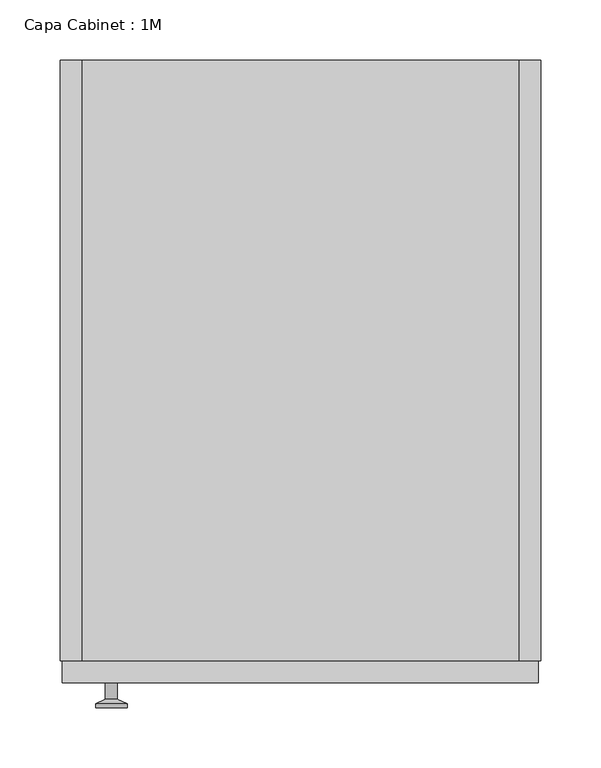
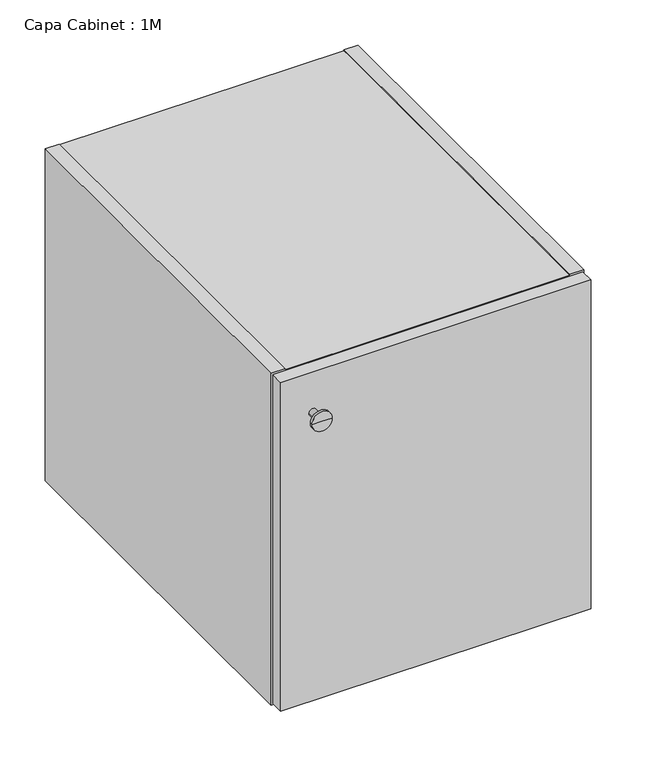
"""IFC4 building model written with IfcOpenShell, lengths in millimetres: furniture geometry, Capa Cabinet : 1M."""

from ifc_helpers import new_model, si_unit, frame, origin, place, context, project, spatial, polyline, circle_curve, outline, extrude, faceted_brep, source, transform, mapped, element, save
from ifc_brep_helpers import plane_surface, cylinder_surface, revolved_surface, advanced_brep


def capa_cabinet_1m_d2b1a533(model_context):
    return source(origin(), model_context, "Body", "SolidModel", [
        faceted_brep([(-182.0, 500.0, 448.0), (-182.0, 500.0, 447.0), (182.0, 500.0, 447.0), (182.0, 500.0, 448.0), (200.0, 500.0, 448.0), (200.0, 500.0, 0.0), (182.0, 500.0, 0.0), (182.0, 500.0, 1.0), (-182.0, 500.0, 1.0), (-182.0, 500.0, 0.0), (-200.0, 500.0, 0.0), (-200.0, 500.0, 448.0), (182.0, 490.0, 19.0), (182.0, 490.0, 429.0), (-182.0, 490.0, 429.0), (-182.0, 490.0, 19.0), (-182.0, 0.0, 448.0), (-200.0, 0.0, 448.0), (-200.0, 0.0, 0.0), (-182.0, 0.0, 0.0), (-182.0, 0.0, 1.0), (182.0, 0.0, 1.0), (182.0, 0.0, 0.0), (200.0, 0.0, 0.0), (200.0, 0.0, 448.0), (182.0, 0.0, 448.0), (182.0, 0.0, 447.0), (-182.0, 0.0, 447.0), (182.0, 0.0, 429.0), (182.0, 0.0, 19.0), (-182.0, 0.0, 19.0), (-182.0, 0.0, 429.0)], [[[0, 1, 2, 3, 4, 5, 6, 7, 8, 9, 10, 11]], [[12, 13, 14, 15]], [[16, 17, 18, 19, 20, 21, 22, 23, 24, 25, 26, 27], [28, 29, 30, 31]], [[17, 16, 0, 11]], [[18, 17, 11, 10]], [[23, 22, 6, 5]], [[24, 23, 5, 4]], [[19, 18, 10, 9]], [[20, 19, 9, 8]], [[21, 20, 8, 7]], [[22, 21, 7, 6]], [[25, 24, 4, 3]], [[26, 25, 3, 2]], [[27, 26, 2, 1]], [[16, 27, 1, 0]], [[29, 28, 13, 12]], [[30, 29, 12, 15]], [[31, 30, 15, 14]], [[28, 31, 14, 13]]]),
        extrude(outline(polyline([(198.0, -18.0), (-198.0, -18.0), (-198.0, 0.0), (198.0, 0.0), (198.0, -18.0)])), frame((0.0, 0.0, 2.0), z_axis=(0.0, 0.0, 1.0), x_axis=(1.0, 0.0, 0.0)), (0.0, 0.0, 1.0), 444.0),
        advanced_brep(
        [(-157.2922597, -18.0, 392.0), (-152.2922597, -18.0, 392.0), (-162.2922597, -18.0, 392.0), (-170.2922597, -38.997134, 392.0), (-144.2922597, -38.997134, 392.0), (-157.2922597, -38.997134, 392.0), (-170.2922597, -35.5419417, 392.0), (-144.2922597, -35.5419417, 392.0), (-162.2922597, -31.8114804, 392.0), (-152.2922597, -31.8114804, 392.0)],
        [
            (0, 1),
            (1, 2, circle_curve(frame((-157.2922597, -18.0, 392.0), z_axis=(0.0, 1.0, 0.0), x_axis=(1.0, 0.0, 0.0)), 5.0)),
            (2, 0),
            (2, 1, circle_curve(frame((-157.2922597, -18.0, 392.0), z_axis=(0.0, 1.0, 0.0), x_axis=(1.0, 0.0, 0.0)), 5.0)),
            (3, 4, circle_curve(frame((-157.2922597, -38.997134, 392.0), z_axis=(0.0, -1.0, 0.0), x_axis=(1.0, 0.0, 0.0)), 13.0)),
            (4, 5),
            (5, 3),
            (4, 3, circle_curve(frame((-157.2922597, -38.997134, 392.0), z_axis=(0.0, -1.0, 0.0), x_axis=(1.0, 0.0, 0.0)), 13.0)),
            (6, 7, circle_curve(frame((-157.2922597, -35.5419417, 392.0), z_axis=(0.0, -1.0, 0.0), x_axis=(1.0, 0.0, 0.0)), 13.0)),
            (7, 4),
            (3, 6),
            (7, 6, circle_curve(frame((-157.2922597, -35.5419417, 392.0), z_axis=(0.0, -1.0, 0.0), x_axis=(1.0, 0.0, 0.0)), 13.0)),
            (8, 9, circle_curve(frame((-157.2922597, -31.8114804, 392.0), z_axis=(0.0, -1.0, 0.0), x_axis=(1.0, 0.0, 0.0)), 5.0)),
            (9, 7),
            (6, 8),
            (9, 8, circle_curve(frame((-157.2922597, -31.8114804, 392.0), z_axis=(0.0, -1.0, 0.0), x_axis=(1.0, 0.0, 0.0)), 5.0)),
            (1, 9),
            (8, 2),
        ],
        [
            plane_surface(frame((-157.2922597, -18.0, 392.0), z_axis=(0.0, 1.0, 0.0), x_axis=(1.0, 0.0, 0.0))),
            plane_surface(frame((-157.2922597, -38.997134, 392.0), z_axis=(0.0, -1.0, 0.0), x_axis=(1.0, 0.0, 0.0))),
            cylinder_surface(frame((-157.2922597, -38.997134, 392.0), z_axis=(0.0, 1.0, 0.0), x_axis=(1.0, 0.0, 0.0)), 13.0),
            revolved_surface(polyline([(-144.2922597, -35.5419417, 392.0), (-152.2922597, -31.8114804, 392.0)]), (-157.2922597, -38.997134, 392.0), (0.0, 1.0, 0.0)),
            cylinder_surface(frame((-157.2922597, -38.997134, 392.0), z_axis=(0.0, 1.0, 0.0), x_axis=(1.0, 0.0, 0.0)), 5.0),
        ],
        [
            (0, [[1, 2, 3]]),
            (0, [[-3, 4, -1]]),
            (1, [[5, 6, 7]]),
            (1, [[8, -7, -6]]),
            (2, [[9, 10, -5, 11]]),
            (2, [[12, -11, -8, -10]]),
            (3, [[13, 14, -9, 15]]),
            (3, [[16, -15, -12, -14]]),
            (4, [[-2, 17, -13, 18]]),
            (4, [[-4, -18, -16, -17]]),
        ],
    ),
    ])


if __name__ == "__main__":
    model = new_model("IFC4")
    model_context = context("Model", 3, world=origin())
    ifc_project = project(units=[si_unit("LENGTHUNIT", "METRE", prefix="MILLI")], contexts=[model_context])
    site = spatial("IfcSite", under=ifc_project)
    building = spatial("IfcBuilding", under=site)
    placement = place(None, origin())
    capa_cabinet_1m_shape = capa_cabinet_1m_d2b1a533(model_context)
    element("IfcFurniture", 1, ObjectType="Capa Cabinet : 1M", at=placement, inside=building, context=model_context, shape_type="MappedRepresentation", body=[
        mapped(capa_cabinet_1m_shape, transform((0.0, 0.0, 0.0), x_axis=(1.0, 0.0, 0.0), y_axis=(0.0, 1.0, 0.0), z_axis=(0.0, 0.0, 1.0))),
    ])
    save(model, "model.ifc")
